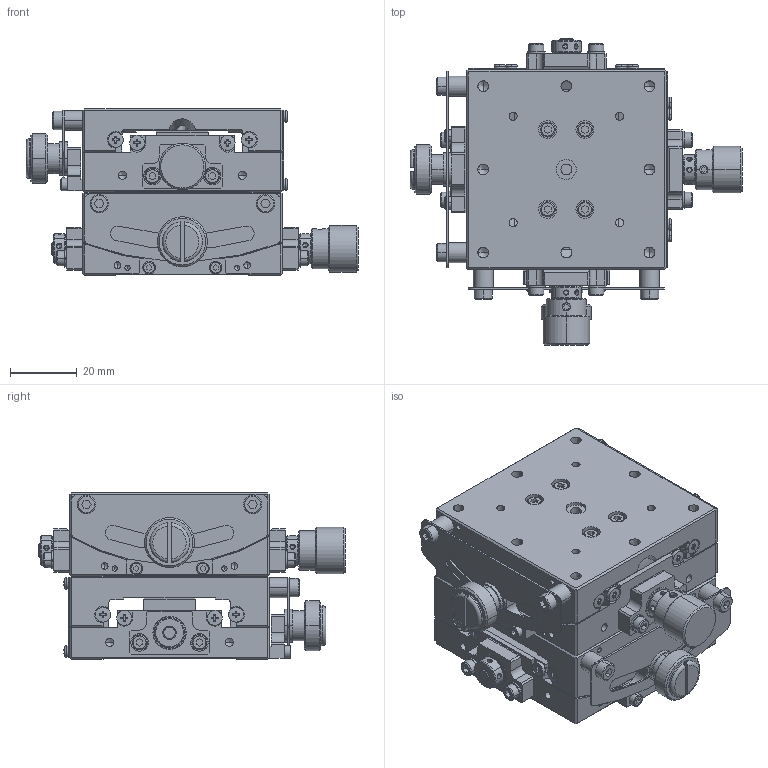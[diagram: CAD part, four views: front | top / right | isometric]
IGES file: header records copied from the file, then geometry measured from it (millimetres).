
Global section: file name: No Iges File Name specified; native system: AutoDesk Inventor R12.0; preprocessor: AutoDesk Inventor Iges Exporter R12.0; author: No Author specified; organization: No Organization specified; date: 20090129.130711; units: millimetre
Bounding box: 99.8 x 92.1 x 50 mm (x, y, z)
Volume: 158717.9 mm3; surface area: 74259.3 mm2
Topology: 3 solids, 124 shells, 3012 faces, 7384 edges, 4600 vertices
Faces by surface type: plane 1275, bspline 815, cylinder 434, cone 244, revolution 160, torus 52, sphere 32
